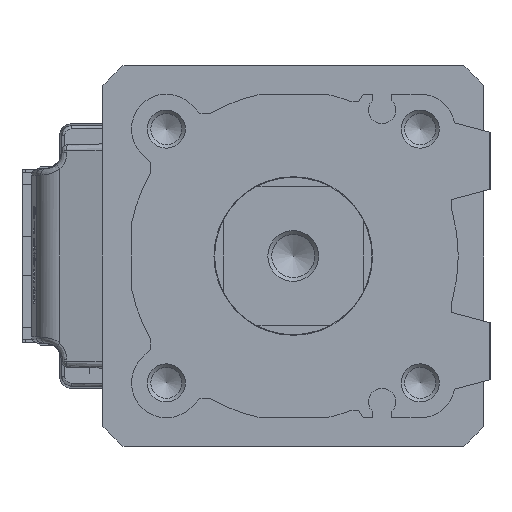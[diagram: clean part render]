
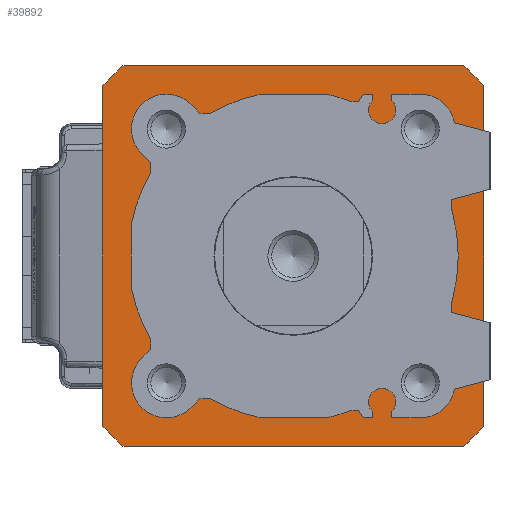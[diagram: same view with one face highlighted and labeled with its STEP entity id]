
A CAD part, left-side view. The second image highlights one B-rep face of the part: STEP entity #39892.
In plain terms, the highlighted planar face has unit normal (-1, 0, 0) as drawn and (0, 0, 1) by its records, which use the part's own axes.
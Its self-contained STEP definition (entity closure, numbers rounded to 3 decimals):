
#14 = CIRCLE ( 'NONE', #49033, 40.25 ) ;
#934 = VERTEX_POINT ( 'NONE', #34178 ) ;
#1154 = CIRCLE ( 'NONE', #42822, 40.25 ) ;
#1823 = EDGE_CURVE ( 'NONE', #50394, #42796, #24631, .T. ) ;
#2254 = ORIENTED_EDGE ( 'NONE', *, *, #33273, .T. ) ;
#2467 = CARTESIAN_POINT ( 'NONE',  ( 26.834, 30., 0. ) ) ;
#3724 = CARTESIAN_POINT ( 'NONE',  ( 26.834, 30., 0. ) ) ;
#4348 = DIRECTION ( 'NONE',  ( 0., 0., 1. ) ) ;
#5433 = EDGE_CURVE ( 'NONE', #8721, #25166, #47989, .T. ) ;
#5711 = CARTESIAN_POINT ( 'NONE',  ( 0., 0., 0. ) ) ;
#7634 = CARTESIAN_POINT ( 'NONE',  ( -15.6, 0., 0. ) ) ;
#8065 = ORIENTED_EDGE ( 'NONE', *, *, #5433, .F. ) ;
#8721 = VERTEX_POINT ( 'NONE', #19492 ) ;
#9155 = DIRECTION ( 'NONE',  ( 0., -1., 0. ) ) ;
#9435 = DIRECTION ( 'NONE',  ( 1., 0., 0. ) ) ;
#9678 = DIRECTION ( 'NONE',  ( 0., 0., 1. ) ) ;
#11521 = VECTOR ( 'NONE', #25213, 1000. ) ;
#11597 = CARTESIAN_POINT ( 'NONE',  ( 0., 0., 0. ) ) ;
#12179 = VERTEX_POINT ( 'NONE', #15015 ) ;
#12544 = CARTESIAN_POINT ( 'NONE',  ( 0., 0., 0. ) ) ;
#14018 = FACE_BOUND ( 'NONE', #31205, .T. ) ;
#14606 = AXIS2_PLACEMENT_3D ( 'NONE', #11597, #27466, #16472 ) ;
#15015 = CARTESIAN_POINT ( 'NONE',  ( -30., 26.834, 0. ) ) ;
#15353 = ORIENTED_EDGE ( 'NONE', *, *, #15809, .T. ) ;
#15809 = EDGE_CURVE ( 'NONE', #50620, #934, #31103, .T. ) ;
#16222 = ORIENTED_EDGE ( 'NONE', *, *, #29876, .T. ) ;
#16391 = CARTESIAN_POINT ( 'NONE',  ( 0., 0., 0. ) ) ;
#16472 = DIRECTION ( 'NONE',  ( 1., 0., 0. ) ) ;
#16574 = CARTESIAN_POINT ( 'NONE',  ( 30., -26.834, 0. ) ) ;
#16679 = EDGE_CURVE ( 'NONE', #31269, #35746, #42211, .T. ) ;
#17535 = ORIENTED_EDGE ( 'NONE', *, *, #49419, .F. ) ;
#17998 = ORIENTED_EDGE ( 'NONE', *, *, #16679, .T. ) ;
#18403 = DIRECTION ( 'NONE',  ( 0., 0., 1. ) ) ;
#18918 = CARTESIAN_POINT ( 'NONE',  ( 30., -26.834, 0. ) ) ;
#19363 = ORIENTED_EDGE ( 'NONE', *, *, #47435, .T. ) ;
#19492 = CARTESIAN_POINT ( 'NONE',  ( 15.6, 0., 0. ) ) ;
#20367 = ORIENTED_EDGE ( 'NONE', *, *, #1823, .T. ) ;
#20470 = DIRECTION ( 'NONE',  ( 1., 0., 0. ) ) ;
#20858 = LINE ( 'NONE', #36708, #11521 ) ;
#22645 = ORIENTED_EDGE ( 'NONE', *, *, #43905, .T. ) ;
#22704 = ORIENTED_EDGE ( 'NONE', *, *, #30906, .T. ) ;
#23093 = VECTOR ( 'NONE', #34531, 1000. ) ;
#23318 = CIRCLE ( 'NONE', #49350, 15.6 ) ;
#24070 = CARTESIAN_POINT ( 'NONE',  ( 30., 26.834, 0. ) ) ;
#24631 = CIRCLE ( 'NONE', #31951, 40.25 ) ;
#24744 = CARTESIAN_POINT ( 'NONE',  ( 0., 0., 0. ) ) ;
#25166 = VERTEX_POINT ( 'NONE', #7634 ) ;
#25213 = DIRECTION ( 'NONE',  ( 1., 0., 0. ) ) ;
#26800 = VECTOR ( 'NONE', #9155, 1000. ) ;
#27466 = DIRECTION ( 'NONE',  ( 0., 0., 1. ) ) ;
#27763 = CARTESIAN_POINT ( 'NONE',  ( -26.834, -30., 0. ) ) ;
#27824 = LINE ( 'NONE', #44173, #26800 ) ;
#28072 = DIRECTION ( 'NONE',  ( 0., 0., 1. ) ) ;
#28168 = DIRECTION ( 'NONE',  ( 0., 0., 1. ) ) ;
#29180 = CARTESIAN_POINT ( 'NONE',  ( 0., 0., 0. ) ) ;
#29617 = FACE_OUTER_BOUND ( 'NONE', #41940, .T. ) ;
#29876 = EDGE_CURVE ( 'NONE', #934, #12179, #30119, .T. ) ;
#30119 = CIRCLE ( 'NONE', #14606, 40.25 ) ;
#30885 = AXIS2_PLACEMENT_3D ( 'NONE', #5711, #41267, #36644 ) ;
#30906 = EDGE_CURVE ( 'NONE', #36215, #31269, #14, .T. ) ;
#31103 = LINE ( 'NONE', #3724, #48360 ) ;
#31205 = EDGE_LOOP ( 'NONE', ( #17535, #8065 ) ) ;
#31269 = VERTEX_POINT ( 'NONE', #16574 ) ;
#31951 = AXIS2_PLACEMENT_3D ( 'NONE', #47484, #28072, #39578 ) ;
#33273 = EDGE_CURVE ( 'NONE', #42796, #36215, #20858, .T. ) ;
#34178 = CARTESIAN_POINT ( 'NONE',  ( -26.834, 30., 0. ) ) ;
#34443 = AXIS2_PLACEMENT_3D ( 'NONE', #12544, #28168, #9435 ) ;
#34531 = DIRECTION ( 'NONE',  ( 0., 1., 0. ) ) ;
#35746 = VERTEX_POINT ( 'NONE', #24070 ) ;
#36215 = VERTEX_POINT ( 'NONE', #36495 ) ;
#36495 = CARTESIAN_POINT ( 'NONE',  ( 26.834, -30., 0. ) ) ;
#36644 = DIRECTION ( 'NONE',  ( 1., 0., 0. ) ) ;
#36708 = CARTESIAN_POINT ( 'NONE',  ( -26.834, -30., 0. ) ) ;
#38117 = CARTESIAN_POINT ( 'NONE',  ( -30., -26.834, 0. ) ) ;
#39578 = DIRECTION ( 'NONE',  ( 1., 0., 0. ) ) ;
#39892 = ADVANCED_FACE ( 'NONE', ( #14018, #29617 ), #45198, .T. ) ;
#40864 = DIRECTION ( 'NONE',  ( 1., 0., 0. ) ) ;
#41267 = DIRECTION ( 'NONE',  ( 0., 0., 1. ) ) ;
#41940 = EDGE_LOOP ( 'NONE', ( #16222, #19363, #20367, #2254, #22704, #17998, #22645, #15353 ) ) ;
#42211 = LINE ( 'NONE', #18918, #23093 ) ;
#42796 = VERTEX_POINT ( 'NONE', #27763 ) ;
#42822 = AXIS2_PLACEMENT_3D ( 'NONE', #24744, #9678, #40864 ) ;
#43905 = EDGE_CURVE ( 'NONE', #35746, #50620, #1154, .T. ) ;
#44173 = CARTESIAN_POINT ( 'NONE',  ( -30., 26.834, 0. ) ) ;
#45198 = PLANE ( 'NONE',  #34443 ) ;
#45255 = DIRECTION ( 'NONE',  ( 1., 0., 0. ) ) ;
#47435 = EDGE_CURVE ( 'NONE', #12179, #50394, #27824, .T. ) ;
#47484 = CARTESIAN_POINT ( 'NONE',  ( 0., 0., 0. ) ) ;
#47989 = CIRCLE ( 'NONE', #30885, 15.6 ) ;
#48360 = VECTOR ( 'NONE', #50286, 1000. ) ;
#49033 = AXIS2_PLACEMENT_3D ( 'NONE', #16391, #4348, #20470 ) ;
#49350 = AXIS2_PLACEMENT_3D ( 'NONE', #29180, #18403, #45255 ) ;
#49419 = EDGE_CURVE ( 'NONE', #25166, #8721, #23318, .T. ) ;
#50286 = DIRECTION ( 'NONE',  ( -1., 0., 0. ) ) ;
#50394 = VERTEX_POINT ( 'NONE', #38117 ) ;
#50620 = VERTEX_POINT ( 'NONE', #2467 ) ;
